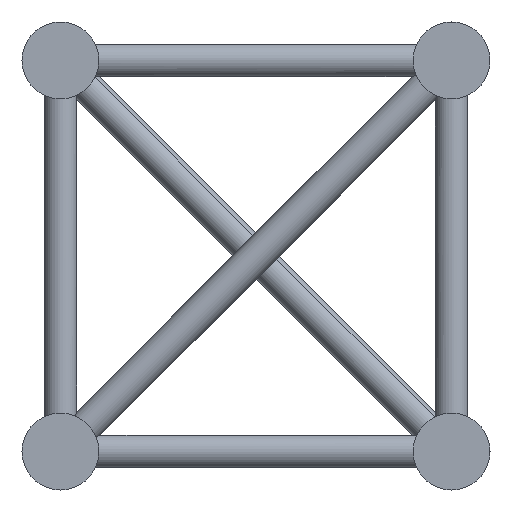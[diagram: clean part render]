
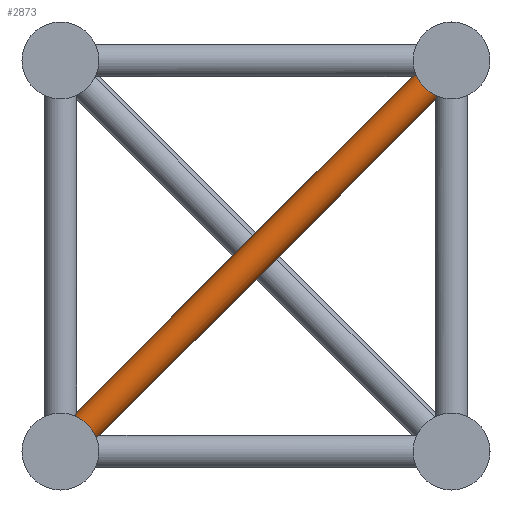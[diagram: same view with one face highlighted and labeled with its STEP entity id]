
A CAD part, left-side view. The second image highlights one B-rep face of the part: STEP entity #2873.
In plain terms, the highlighted cylindrical face has radius 12.5 mm (diameter 25 mm), a full revolution.
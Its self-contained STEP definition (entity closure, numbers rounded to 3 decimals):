
#30=ELLIPSE('',#3131,17.678,12.5);
#31=ELLIPSE('',#3132,32.664,12.5);
#32=ELLIPSE('',#3133,17.678,12.5);
#33=ELLIPSE('',#3135,17.678,12.5);
#34=ELLIPSE('',#3136,32.664,12.5);
#35=ELLIPSE('',#3137,17.678,12.5);
#36=ELLIPSE('',#3139,32.664,12.5);
#37=ELLIPSE('',#3142,32.664,12.5);
#140=FACE_BOUND('',#903,.T.);
#398=B_SPLINE_CURVE_WITH_KNOTS('',3,(#6812,#6813,#6814,#6815,#6816,#6817),
 .UNSPECIFIED.,.F.,.F.,(4,2,4),(1.913,1.922,1.93),
 .UNSPECIFIED.);
#399=B_SPLINE_CURVE_WITH_KNOTS('',3,(#6821,#6822,#6823,#6824,#6825,#6826),
 .UNSPECIFIED.,.F.,.F.,(4,2,4),(5.757,5.766,5.774),
 .UNSPECIFIED.);
#500=CYLINDRICAL_SURFACE('',#3130,12.5);
#620=FACE_OUTER_BOUND('',#902,.T.);
#902=EDGE_LOOP('',(#2182,#2183,#2184,#2185,#2186,#2187,#2188,#2189,#2190,
#2191,#2192,#2193));
#903=EDGE_LOOP('',(#2194,#2195,#2196,#2197,#2198,#2199));
#1183=CIRCLE('',#3128,12.5);
#1184=CIRCLE('',#3129,12.5);
#1185=CIRCLE('',#3134,12.5);
#1186=CIRCLE('',#3138,12.5);
#1187=CIRCLE('',#3140,12.5);
#1188=CIRCLE('',#3141,12.5);
#1189=CIRCLE('',#3143,12.5);
#1190=CIRCLE('',#3144,12.5);
#1362=VERTEX_POINT('',#6810);
#1363=VERTEX_POINT('',#6811);
#1364=VERTEX_POINT('',#6818);
#1365=VERTEX_POINT('',#6820);
#1404=VERTEX_POINT('',#7784);
#1405=VERTEX_POINT('',#7785);
#1426=VERTEX_POINT('',#7967);
#1427=VERTEX_POINT('',#7968);
#1428=VERTEX_POINT('',#7973);
#1429=VERTEX_POINT('',#7974);
#1430=VERTEX_POINT('',#7976);
#1431=VERTEX_POINT('',#7978);
#1432=VERTEX_POINT('',#7981);
#1433=VERTEX_POINT('',#7983);
#1434=VERTEX_POINT('',#7987);
#1435=VERTEX_POINT('',#7988);
#1436=VERTEX_POINT('',#7991);
#1437=VERTEX_POINT('',#7993);
#1617=EDGE_CURVE('',#1362,#1363,#398,.T.);
#1619=EDGE_CURVE('',#1364,#1365,#399,.T.);
#1720=EDGE_CURVE('',#1426,#1364,#1183,.T.);
#1721=EDGE_CURVE('',#1363,#1427,#1184,.T.);
#1722=EDGE_CURVE('',#1428,#1429,#30,.T.);
#1723=EDGE_CURVE('',#1430,#1428,#31,.T.);
#1724=EDGE_CURVE('',#1431,#1430,#32,.T.);
#1725=EDGE_CURVE('',#1365,#1431,#1185,.T.);
#1726=EDGE_CURVE('',#1432,#1426,#33,.T.);
#1727=EDGE_CURVE('',#1433,#1432,#34,.T.);
#1728=EDGE_CURVE('',#1427,#1433,#35,.T.);
#1729=EDGE_CURVE('',#1429,#1362,#1186,.T.);
#1730=EDGE_CURVE('',#1434,#1435,#36,.T.);
#1731=EDGE_CURVE('',#1404,#1434,#1187,.T.);
#1732=EDGE_CURVE('',#1436,#1404,#1188,.T.);
#1733=EDGE_CURVE('',#1437,#1436,#37,.T.);
#1734=EDGE_CURVE('',#1405,#1437,#1189,.T.);
#1735=EDGE_CURVE('',#1435,#1405,#1190,.T.);
#2182=ORIENTED_EDGE('',*,*,#1722,.F.);
#2183=ORIENTED_EDGE('',*,*,#1723,.F.);
#2184=ORIENTED_EDGE('',*,*,#1724,.F.);
#2185=ORIENTED_EDGE('',*,*,#1725,.F.);
#2186=ORIENTED_EDGE('',*,*,#1619,.F.);
#2187=ORIENTED_EDGE('',*,*,#1720,.F.);
#2188=ORIENTED_EDGE('',*,*,#1726,.F.);
#2189=ORIENTED_EDGE('',*,*,#1727,.F.);
#2190=ORIENTED_EDGE('',*,*,#1728,.F.);
#2191=ORIENTED_EDGE('',*,*,#1721,.F.);
#2192=ORIENTED_EDGE('',*,*,#1617,.F.);
#2193=ORIENTED_EDGE('',*,*,#1729,.F.);
#2194=ORIENTED_EDGE('',*,*,#1730,.F.);
#2195=ORIENTED_EDGE('',*,*,#1731,.F.);
#2196=ORIENTED_EDGE('',*,*,#1732,.F.);
#2197=ORIENTED_EDGE('',*,*,#1733,.F.);
#2198=ORIENTED_EDGE('',*,*,#1734,.F.);
#2199=ORIENTED_EDGE('',*,*,#1735,.F.);
#2873=ADVANCED_FACE('',(#620,#140),#500,.T.);
#3128=AXIS2_PLACEMENT_3D('',#7970,#3638,#3639);
#3129=AXIS2_PLACEMENT_3D('',#7971,#3640,#3641);
#3130=AXIS2_PLACEMENT_3D('',#7972,#3642,#3643);
#3131=AXIS2_PLACEMENT_3D('',#7975,#3644,#3645);
#3132=AXIS2_PLACEMENT_3D('',#7977,#3646,#3647);
#3133=AXIS2_PLACEMENT_3D('',#7979,#3648,#3649);
#3134=AXIS2_PLACEMENT_3D('',#7980,#3650,#3651);
#3135=AXIS2_PLACEMENT_3D('',#7982,#3652,#3653);
#3136=AXIS2_PLACEMENT_3D('',#7984,#3654,#3655);
#3137=AXIS2_PLACEMENT_3D('',#7985,#3656,#3657);
#3138=AXIS2_PLACEMENT_3D('',#7986,#3658,#3659);
#3139=AXIS2_PLACEMENT_3D('',#7989,#3660,#3661);
#3140=AXIS2_PLACEMENT_3D('',#7990,#3662,#3663);
#3141=AXIS2_PLACEMENT_3D('',#7992,#3664,#3665);
#3142=AXIS2_PLACEMENT_3D('',#7994,#3666,#3667);
#3143=AXIS2_PLACEMENT_3D('',#7995,#3668,#3669);
#3144=AXIS2_PLACEMENT_3D('',#7996,#3670,#3671);
#3638=DIRECTION('center_axis',(0.,-0.707,0.707));
#3639=DIRECTION('ref_axis',(0.,0.707,0.707));
#3640=DIRECTION('center_axis',(0.,-0.707,0.707));
#3641=DIRECTION('ref_axis',(0.,0.707,0.707));
#3642=DIRECTION('center_axis',(0.,-0.707,
0.707));
#3643=DIRECTION('ref_axis',(0.,0.707,0.707));
#3644=DIRECTION('center_axis',(0.,1.,0.));
#3645=DIRECTION('ref_axis',(0.,0.,1.));
#3646=DIRECTION('center_axis',(0.,0.383,0.924));
#3647=DIRECTION('ref_axis',(0.,0.924,-0.383));
#3648=DIRECTION('center_axis',(0.,1.,0.));
#3649=DIRECTION('ref_axis',(0.,0.,1.));
#3650=DIRECTION('center_axis',(0.,-0.707,0.707));
#3651=DIRECTION('ref_axis',(0.,0.707,0.707));
#3652=DIRECTION('center_axis',(0.,0.,
-1.));
#3653=DIRECTION('ref_axis',(0.,1.,0.));
#3654=DIRECTION('center_axis',(0.,-0.924,
-0.383));
#3655=DIRECTION('ref_axis',(0.,-0.383,0.924));
#3656=DIRECTION('center_axis',(0.,0.,
-1.));
#3657=DIRECTION('ref_axis',(0.,1.,0.));
#3658=DIRECTION('center_axis',(0.,-0.707,0.707));
#3659=DIRECTION('ref_axis',(0.,0.707,0.707));
#3660=DIRECTION('center_axis',(0.,-0.383,-0.924));
#3661=DIRECTION('ref_axis',(0.,0.924,-0.383));
#3662=DIRECTION('center_axis',(0.,0.707,-0.707));
#3663=DIRECTION('ref_axis',(0.,0.707,0.707));
#3664=DIRECTION('center_axis',(0.,0.707,-0.707));
#3665=DIRECTION('ref_axis',(0.,0.707,0.707));
#3666=DIRECTION('center_axis',(0.,0.924,0.383));
#3667=DIRECTION('ref_axis',(0.,-0.383,0.924));
#3668=DIRECTION('center_axis',(0.,0.707,-0.707));
#3669=DIRECTION('ref_axis',(0.,0.707,0.707));
#3670=DIRECTION('center_axis',(0.,0.707,-0.707));
#3671=DIRECTION('ref_axis',(0.,0.707,0.707));
#6810=CARTESIAN_POINT('',(80.,17.738,-17.617));
#6811=CARTESIAN_POINT('',(80.,17.617,-17.738));
#6812=CARTESIAN_POINT('Ctrl Pts',(80.,17.738,-17.617));
#6813=CARTESIAN_POINT('Ctrl Pts',(80.,17.718,-17.638));
#6814=CARTESIAN_POINT('Ctrl Pts',(80.,17.698,-17.658));
#6815=CARTESIAN_POINT('Ctrl Pts',(80.,17.658,-17.698));
#6816=CARTESIAN_POINT('Ctrl Pts',(80.,17.638,-17.718));
#6817=CARTESIAN_POINT('Ctrl Pts',(80.,17.617,-17.738));
#6818=CARTESIAN_POINT('',(105.,17.617,-17.738));
#6820=CARTESIAN_POINT('',(105.,17.738,-17.617));
#6821=CARTESIAN_POINT('Ctrl Pts',(105.,17.617,-17.738));
#6822=CARTESIAN_POINT('Ctrl Pts',(105.,17.638,-17.718));
#6823=CARTESIAN_POINT('Ctrl Pts',(105.,17.658,-17.698));
#6824=CARTESIAN_POINT('Ctrl Pts',(105.,17.698,-17.658));
#6825=CARTESIAN_POINT('Ctrl Pts',(105.,17.718,-17.638));
#6826=CARTESIAN_POINT('Ctrl Pts',(105.,17.738,-17.617));
#7784=CARTESIAN_POINT('',(105.,281.322,-281.322));
#7785=CARTESIAN_POINT('',(80.,281.322,-281.322));
#7967=CARTESIAN_POINT('',(99.501,10.355,-25.));
#7968=CARTESIAN_POINT('',(85.499,10.355,-25.));
#7970=CARTESIAN_POINT('Origin',(92.5,17.678,-17.678));
#7971=CARTESIAN_POINT('Origin',(92.5,17.678,-17.678));
#7972=CARTESIAN_POINT('Origin',(92.5,281.322,-281.322));
#7973=CARTESIAN_POINT('',(85.499,25.,-10.355));
#7974=CARTESIAN_POINT('',(85.499,25.,-10.355));
#7975=CARTESIAN_POINT('Origin',(92.5,25.,-25.));
#7976=CARTESIAN_POINT('',(99.501,25.,-10.355));
#7977=CARTESIAN_POINT('Origin',(92.5,0.,0.));
#7978=CARTESIAN_POINT('',(99.501,25.,-10.355));
#7979=CARTESIAN_POINT('Origin',(92.5,25.,-25.));
#7980=CARTESIAN_POINT('Origin',(92.5,17.678,-17.678));
#7981=CARTESIAN_POINT('',(99.501,10.355,-25.));
#7982=CARTESIAN_POINT('Origin',(92.5,25.,-25.));
#7983=CARTESIAN_POINT('',(85.499,10.355,-25.));
#7984=CARTESIAN_POINT('Origin',(92.5,0.,0.));
#7985=CARTESIAN_POINT('Origin',(92.5,25.,-25.));
#7986=CARTESIAN_POINT('Origin',(92.5,17.678,-17.678));
#7987=CARTESIAN_POINT('',(99.501,274.,-288.645));
#7988=CARTESIAN_POINT('',(85.499,274.,-288.645));
#7989=CARTESIAN_POINT('Origin',(92.5,299.,-299.));
#7990=CARTESIAN_POINT('Origin',(92.5,281.322,-281.322));
#7991=CARTESIAN_POINT('',(99.501,288.645,-274.));
#7992=CARTESIAN_POINT('Origin',(92.5,281.322,-281.322));
#7993=CARTESIAN_POINT('',(85.499,288.645,-274.));
#7994=CARTESIAN_POINT('Origin',(92.5,299.,-299.));
#7995=CARTESIAN_POINT('Origin',(92.5,281.322,-281.322));
#7996=CARTESIAN_POINT('Origin',(92.5,281.322,-281.322));
